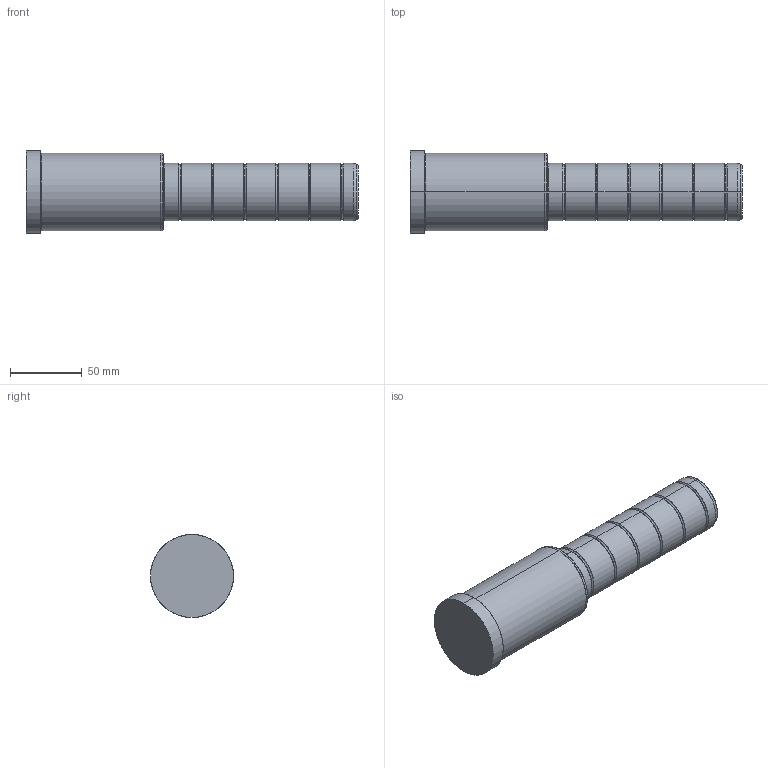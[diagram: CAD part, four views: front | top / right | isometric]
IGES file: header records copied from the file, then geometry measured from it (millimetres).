
Start section: SolidWorks IGES file using analytic representation for surfaces
Global section: file name: C:\Documents and Settings\kalite-mail\Desktop\IGS\D02\40\D02 - 40x96x136.IGS; native system: SolidWorks 2008; preprocessor: SolidWorks 2008; author: kalite-mail; date: 080617.101506; units: millimetre
Bounding box: 232 x 58 x 58 mm (x, y, z)
Surface area: 39382.2 mm2 (no closed solid volume)
Topology: 0 solids, 0 shells, 60 faces, 856 edges, 856 vertices
Faces by surface type: bspline 34, revolution 26
